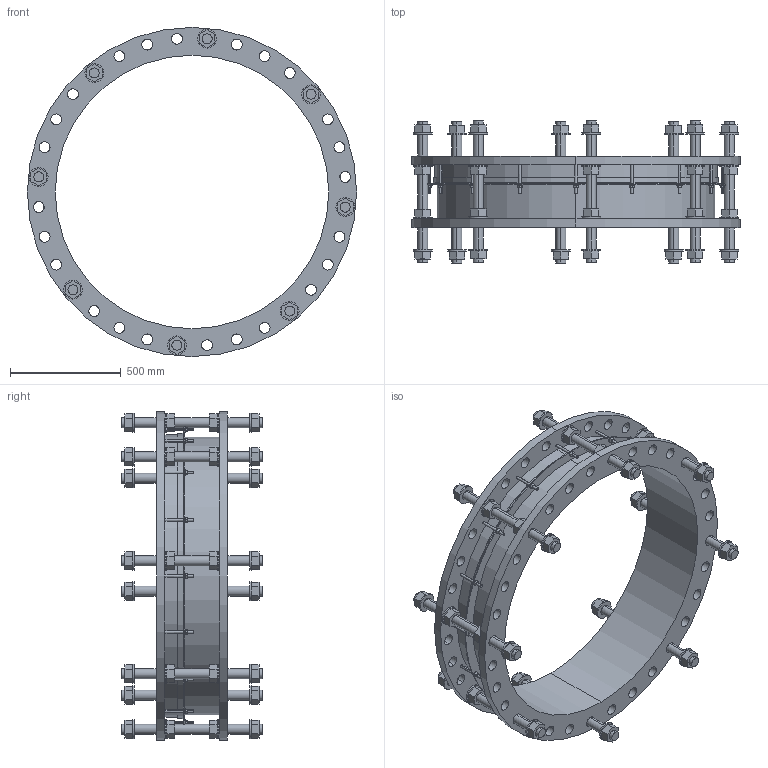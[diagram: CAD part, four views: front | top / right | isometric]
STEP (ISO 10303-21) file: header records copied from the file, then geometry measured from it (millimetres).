
FILE_DESCRIPTION((''),'2;1');
FILE_NAME('A2E_DJ_BIM_ASM','2020-11-30T',('mfairey'),('Glynwed Pipe Systems'),'CREO PARAMETRIC BY PTC INC, 2016130','CREO PARAMETRIC BY PTC INC, 2016130','');
FILE_SCHEMA(('CONFIG_CONTROL_DESIGN'));
Length unit declared in the file: millimetre
Products named in the file (3): DJ_AF0; TIE_BOLT_BIM; A2E_DJ_BIM_ASM
Assembly tree (9 placements, depth 2):
  A2E_DJ_BIM_ASM
    DJ_AF0
    TIE_BOLT_BIM  x8
Bounding box: 1485 x 640 x 1485 mm (x, y, z)
Volume: 62569591.7 mm3; surface area: 6272946.9 mm2
Topology: 9 solids, 9 shells, 868 faces, 2126 edges, 1406 vertices
Faces by surface type: plane 470, cylinder 394, cone 4
Entity records: 16389 total; most frequent: CARTESIAN_POINT 3737, DIRECTION 2742, ORIENTED_EDGE 2488, EDGE_CURVE 1244, AXIS2_PLACEMENT_3D 1054, VERTEX_POINT 818, EDGE_LOOP 684, VECTOR 634
